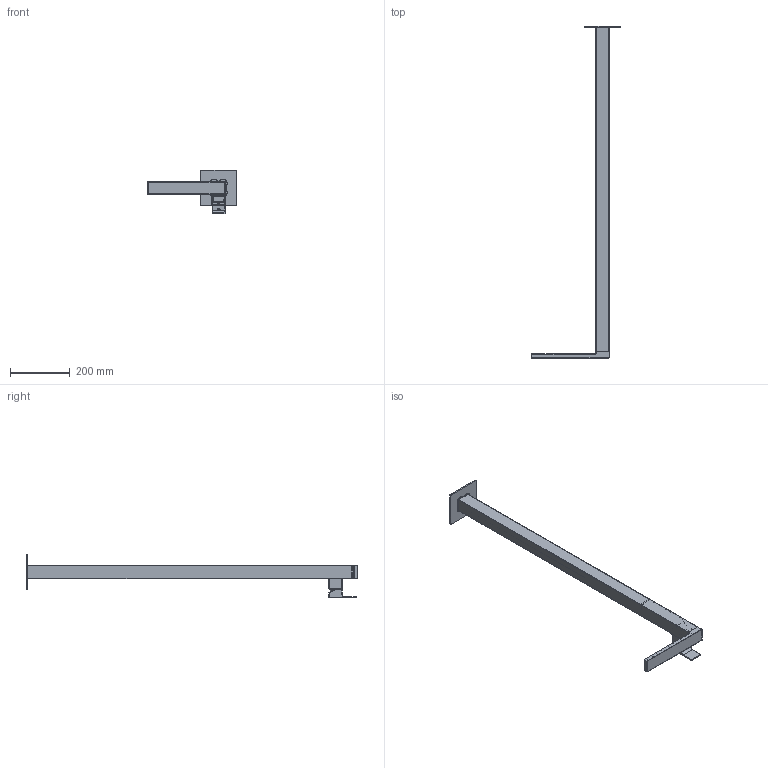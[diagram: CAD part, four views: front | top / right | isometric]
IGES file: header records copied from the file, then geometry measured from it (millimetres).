
Start section:  PTC IGES file: 35595.igs
Global section: file name: 35595.igs; native system: Creo Parametric by PTC Inc.; preprocessor: 2022014; author: carloff; organization: Unknown; date: 20260204.105057; units: millimetre
Bounding box: 297.5 x 1110.3 x 146.7 mm (x, y, z)
Surface area: 846678.2 mm2 (no closed solid volume)
Topology: 0 solids, 0 shells, 1339 faces, 6542 edges, 6525 vertices
Faces by surface type: revolution 894, bspline 445
